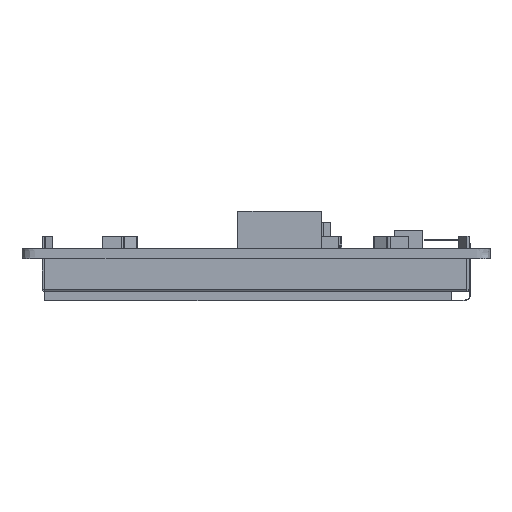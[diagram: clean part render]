
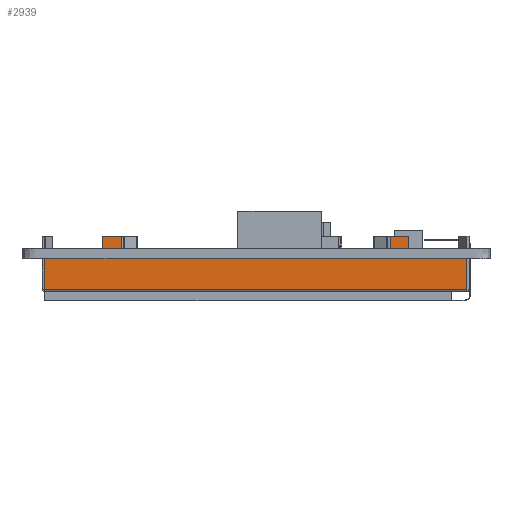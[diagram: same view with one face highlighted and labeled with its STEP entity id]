
A CAD part, left-side view. The second image highlights one B-rep face of the part: STEP entity #2939.
In plain terms, the highlighted planar face has unit normal (-1, 0, 0).
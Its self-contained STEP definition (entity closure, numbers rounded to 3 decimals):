
#2939=ADVANCED_FACE('',(#5102),#3926,.F.);
#3926=PLANE('',#26486);
#5102=FACE_OUTER_BOUND('',#6331,.T.);
#6331=EDGE_LOOP('',(#12202,#12203,#12204,#12205,#12206,#12207,#12208,#12209,
#12210,#12211,#12212,#12213,#12214,#12215,#12216,#12217));
#12202=ORIENTED_EDGE('',*,*,#18674,.T.);
#12203=ORIENTED_EDGE('',*,*,#18675,.F.);
#12204=ORIENTED_EDGE('',*,*,#18676,.F.);
#12205=ORIENTED_EDGE('',*,*,#18677,.T.);
#12206=ORIENTED_EDGE('',*,*,#18678,.T.);
#12207=ORIENTED_EDGE('',*,*,#18679,.T.);
#12208=ORIENTED_EDGE('',*,*,#18672,.T.);
#12209=ORIENTED_EDGE('',*,*,#18680,.F.);
#12210=ORIENTED_EDGE('',*,*,#18681,.T.);
#12211=ORIENTED_EDGE('',*,*,#18682,.F.);
#12212=ORIENTED_EDGE('',*,*,#18683,.F.);
#12213=ORIENTED_EDGE('',*,*,#18684,.T.);
#12214=ORIENTED_EDGE('',*,*,#18666,.T.);
#12215=ORIENTED_EDGE('',*,*,#18685,.F.);
#12216=ORIENTED_EDGE('',*,*,#18686,.F.);
#12217=ORIENTED_EDGE('',*,*,#18687,.T.);
#15417=VERTEX_POINT('',#38820);
#15418=VERTEX_POINT('',#38821);
#15423=VERTEX_POINT('',#38832);
#15424=VERTEX_POINT('',#38834);
#15425=VERTEX_POINT('',#38838);
#15426=VERTEX_POINT('',#38839);
#15427=VERTEX_POINT('',#38841);
#15428=VERTEX_POINT('',#38843);
#15429=VERTEX_POINT('',#38845);
#15430=VERTEX_POINT('',#38847);
#15431=VERTEX_POINT('',#38850);
#15432=VERTEX_POINT('',#38852);
#15433=VERTEX_POINT('',#38854);
#15434=VERTEX_POINT('',#38856);
#15435=VERTEX_POINT('',#38859);
#15436=VERTEX_POINT('',#38861);
#18666=EDGE_CURVE('',#15417,#15418,#21657,.T.);
#18672=EDGE_CURVE('',#15424,#15423,#21663,.T.);
#18674=EDGE_CURVE('',#15425,#15426,#21665,.T.);
#18675=EDGE_CURVE('',#15427,#15426,#21666,.T.);
#18676=EDGE_CURVE('',#15428,#15427,#21667,.T.);
#18677=EDGE_CURVE('',#15428,#15429,#21668,.T.);
#18678=EDGE_CURVE('',#15429,#15430,#21669,.T.);
#18679=EDGE_CURVE('',#15430,#15424,#21670,.T.);
#18680=EDGE_CURVE('',#15431,#15423,#21671,.T.);
#18681=EDGE_CURVE('',#15431,#15432,#21672,.T.);
#18682=EDGE_CURVE('',#15433,#15432,#21673,.T.);
#18683=EDGE_CURVE('',#15434,#15433,#21674,.T.);
#18684=EDGE_CURVE('',#15434,#15417,#21675,.T.);
#18685=EDGE_CURVE('',#15435,#15418,#21676,.T.);
#18686=EDGE_CURVE('',#15436,#15435,#21677,.T.);
#18687=EDGE_CURVE('',#15436,#15425,#21678,.T.);
#21657=LINE('',#38819,#24482);
#21663=LINE('',#38833,#24488);
#21665=LINE('',#38837,#24490);
#21666=LINE('',#38840,#24491);
#21667=LINE('',#38842,#24492);
#21668=LINE('',#38844,#24493);
#21669=LINE('',#38846,#24494);
#21670=LINE('',#38848,#24495);
#21671=LINE('',#38849,#24496);
#21672=LINE('',#38851,#24497);
#21673=LINE('',#38853,#24498);
#21674=LINE('',#38855,#24499);
#21675=LINE('',#38857,#24500);
#21676=LINE('',#38858,#24501);
#21677=LINE('',#38860,#24502);
#21678=LINE('',#38862,#24503);
#24482=VECTOR('',#32016,1.);
#24488=VECTOR('',#32024,1.);
#24490=VECTOR('',#32028,1.);
#24491=VECTOR('',#32029,1.);
#24492=VECTOR('',#32030,1.);
#24493=VECTOR('',#32031,1.);
#24494=VECTOR('',#32032,1.);
#24495=VECTOR('',#32033,1.);
#24496=VECTOR('',#32034,1.);
#24497=VECTOR('',#32035,1.);
#24498=VECTOR('',#32036,1.);
#24499=VECTOR('',#32037,1.);
#24500=VECTOR('',#32038,1.);
#24501=VECTOR('',#32039,1.);
#24502=VECTOR('',#32040,1.);
#24503=VECTOR('',#32041,1.);
#26486=AXIS2_PLACEMENT_3D('',#38863,#32042,#32043);
#32016=DIRECTION('',(0.,1.,0.));
#32024=DIRECTION('',(0.,1.,0.));
#32028=DIRECTION('',(0.,1.,0.));
#32029=DIRECTION('',(0.,0.,-1.));
#32030=DIRECTION('',(0.,-1.,0.));
#32031=DIRECTION('',(0.,0.,-1.));
#32032=DIRECTION('',(0.,1.,0.));
#32033=DIRECTION('',(0.,0.,-1.));
#32034=DIRECTION('',(0.,0.,-1.));
#32035=DIRECTION('',(0.,-1.,0.));
#32036=DIRECTION('',(0.,0.,-1.));
#32037=DIRECTION('',(0.,-1.,0.));
#32038=DIRECTION('',(0.,0.,-1.));
#32039=DIRECTION('',(0.,0.,1.));
#32040=DIRECTION('',(0.,1.,0.));
#32041=DIRECTION('',(0.,0.,1.));
#32042=DIRECTION('',(1.,0.,0.));
#32043=DIRECTION('',(0.,1.,0.));
#38819=CARTESIAN_POINT('',(67.65,-14.395,-1.6));
#38820=CARTESIAN_POINT('',(67.65,43.765,-1.6));
#38821=CARTESIAN_POINT('',(67.65,53.005,-1.6));
#38832=CARTESIAN_POINT('',(67.65,40.765,-1.6));
#38833=CARTESIAN_POINT('',(67.65,-14.395,-1.6));
#38834=CARTESIAN_POINT('',(67.65,-2.155,-1.6));
#38837=CARTESIAN_POINT('',(67.65,-14.395,-1.6));
#38838=CARTESIAN_POINT('',(67.65,-14.395,-1.6));
#38839=CARTESIAN_POINT('',(67.65,-5.155,-1.6));
#38840=CARTESIAN_POINT('',(67.65,-5.155,0.));
#38841=CARTESIAN_POINT('',(67.65,-5.155,2.));
#38842=CARTESIAN_POINT('',(67.65,-2.19,2.));
#38843=CARTESIAN_POINT('',(67.65,-2.19,2.));
#38844=CARTESIAN_POINT('',(67.65,-2.19,2.));
#38845=CARTESIAN_POINT('',(67.65,-2.19,0.));
#38846=CARTESIAN_POINT('',(67.65,-5.155,0.));
#38847=CARTESIAN_POINT('',(67.65,-2.155,0.));
#38848=CARTESIAN_POINT('',(67.65,-2.155,0.));
#38849=CARTESIAN_POINT('',(67.65,40.765,0.));
#38850=CARTESIAN_POINT('',(67.65,40.765,0.));
#38851=CARTESIAN_POINT('',(67.65,43.765,0.));
#38852=CARTESIAN_POINT('',(67.65,40.754,0.));
#38853=CARTESIAN_POINT('',(67.65,40.754,2.));
#38854=CARTESIAN_POINT('',(67.65,40.754,2.));
#38855=CARTESIAN_POINT('',(67.65,43.765,2.));
#38856=CARTESIAN_POINT('',(67.65,43.765,2.));
#38857=CARTESIAN_POINT('',(67.65,43.765,0.));
#38858=CARTESIAN_POINT('',(67.65,53.005,-6.4));
#38859=CARTESIAN_POINT('',(67.65,53.005,-6.4));
#38860=CARTESIAN_POINT('',(67.65,-14.395,-6.4));
#38861=CARTESIAN_POINT('',(67.65,-14.395,-6.4));
#38862=CARTESIAN_POINT('',(67.65,-14.395,-6.4));
#38863=CARTESIAN_POINT('',(67.65,-14.395,-6.4));
